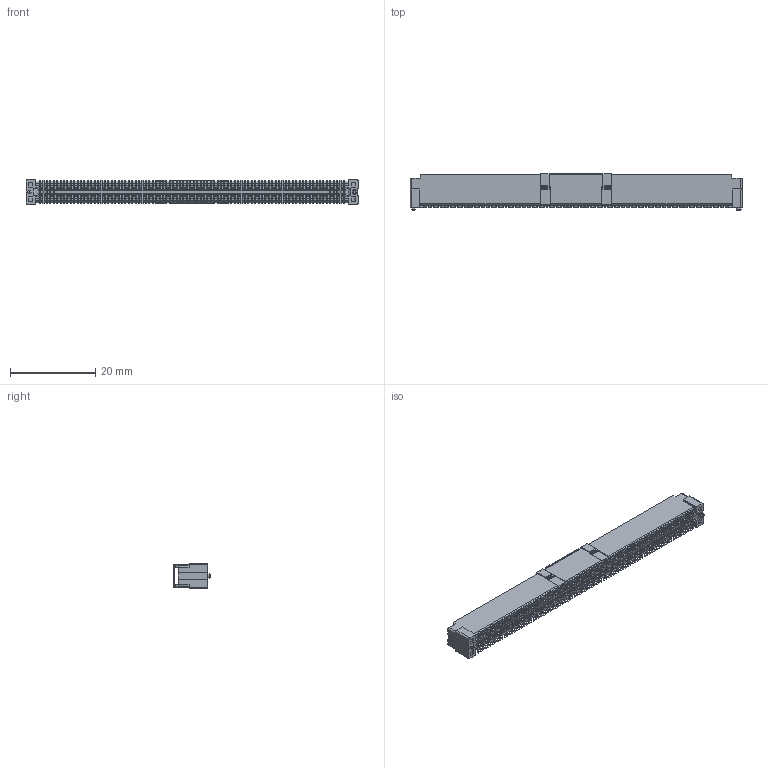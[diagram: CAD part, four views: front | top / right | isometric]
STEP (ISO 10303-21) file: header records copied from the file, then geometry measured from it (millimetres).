
FILE_DESCRIPTION (( 'STEP AP203' ), '1' );
FILE_NAME ('HC-PBB08-1-180-M-H7.7-XX-R-P-06 (BTB0.8 单槽 公座 立贴 带柱 编带+盖)-HCTL.STEP', '2025-12-22T09:30:46', ( '' ), ( '' ), 'SwSTEP 2.0', 'SolidWorks 2025', '' );
FILE_SCHEMA (( 'CONFIG_CONTROL_DESIGN' ));
Products named in the file (1): HC-PBB08-1-180-M-H7.7-XX-R-P-06 (BTB0.8 单槽 公座 立贴 带柱 编带+盖)-HCTL
Bounding box: 77.8 x 8.6 x 6 mm (x, y, z)
Volume: 2041 mm3; surface area: 5518.3 mm2
Topology: 2 solids, 162 shells, 10124 faces, 29583 edges, 19218 vertices
Faces by surface type: plane 8617, cylinder 1482, bspline 13, cone 8, torus 4
Entity records: 331490 total; most frequent: CARTESIAN_POINT 61661, ORIENTED_EDGE 59166, DIRECTION 52041, EDGE_CURVE 29583, LINE 26577, VECTOR 26577, VERTEX_POINT 19218, AXIS2_PLACEMENT_3D 12732
